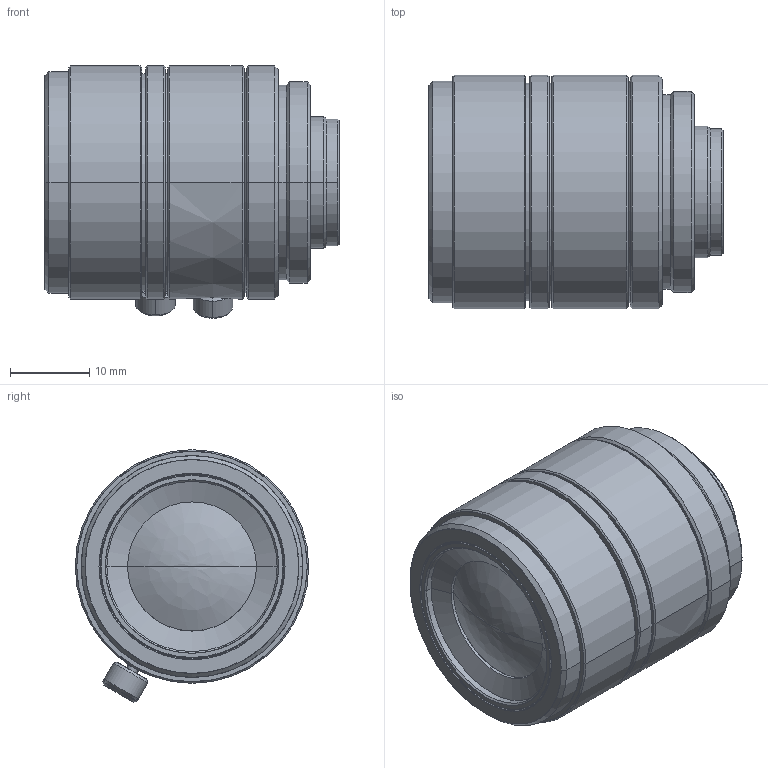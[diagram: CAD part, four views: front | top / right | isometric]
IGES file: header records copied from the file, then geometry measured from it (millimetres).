
Start section: SolidWorks IGES file using analytic representation for surfaces
Global section: file name: C:\Documents and Settings\Tsuji_vst\My Documents\図面\_3D\00 VST\SV-V\SV-04514V.IGS,1; native system: 5HSolidWorks 2012; preprocessor: SolidWorks 2012; author: Tsuji_vst; date: 131024.164216; units: millimetre
Bounding box: 37.13 x 29.5 x 31.9 mm (x, y, z)
Surface area: 6249.1 mm2 (no closed solid volume)
Topology: 0 solids, 0 shells, 124 faces, 2146 edges, 2144 vertices
Faces by surface type: revolution 104, bspline 20
